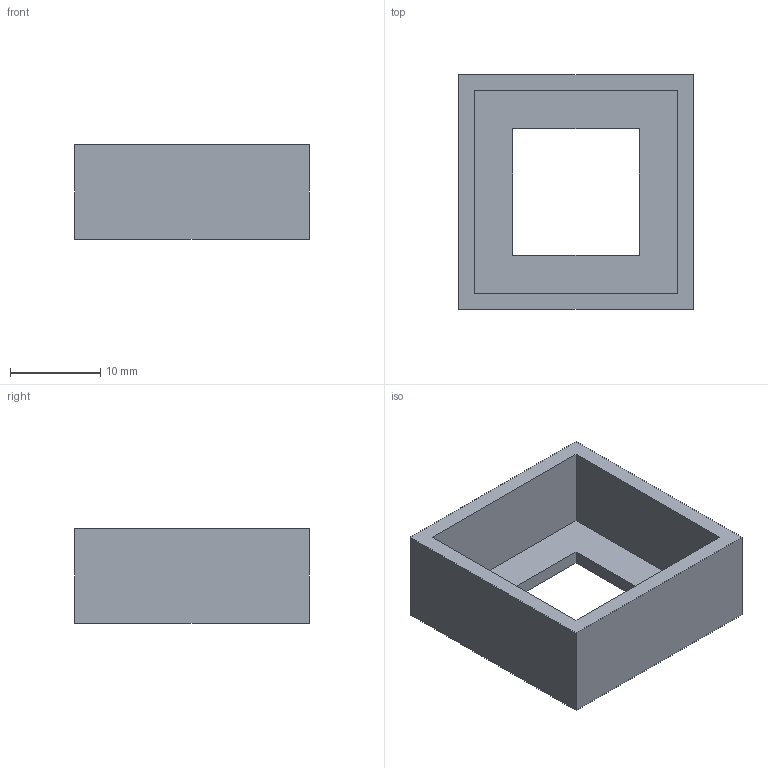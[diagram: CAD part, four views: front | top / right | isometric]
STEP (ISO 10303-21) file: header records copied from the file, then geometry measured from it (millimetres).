
FILE_DESCRIPTION(('Open CASCADE Model'),'2;1');
FILE_NAME('Open CASCADE Shape Model','2026-09-30T20:51:50',('Author'),( 'Open CASCADE'),'Open CASCADE STEP processor 7.9','Open CASCADE 7.9' ,'Unknown');
FILE_SCHEMA(('AUTOMOTIVE_DESIGN { 1 0 10303 214 1 1 1 1 }'));
Length unit declared in the file: millimetre
Products named in the file (1): Open CASCADE STEP translator 7.9 10
Bounding box: 26 x 26 x 10.5 mm (x, y, z)
Volume: 2247.7 mm3; surface area: 2946 mm2
Topology: 1 solids, 1 shells, 15 faces, 36 edges, 24 vertices
Faces by surface type: plane 15
Entity records: 884 total; most frequent: CARTESIAN_POINT 176, DIRECTION 112, LINE 80, VECTOR 80, ORIENTED_EDGE 72, PCURVE 72, DEFINITIONAL_REPRESENTATION 72, EDGE_CURVE 36
